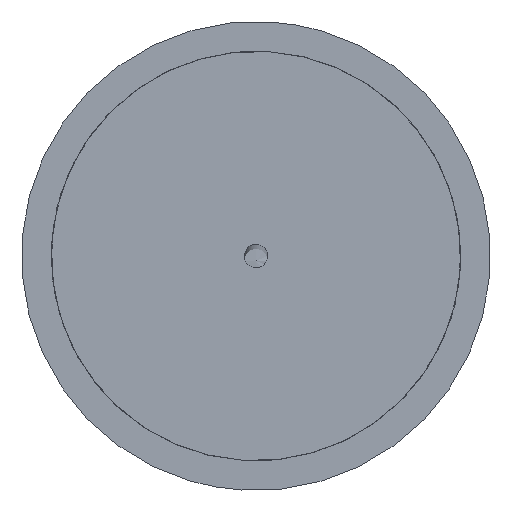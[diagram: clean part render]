
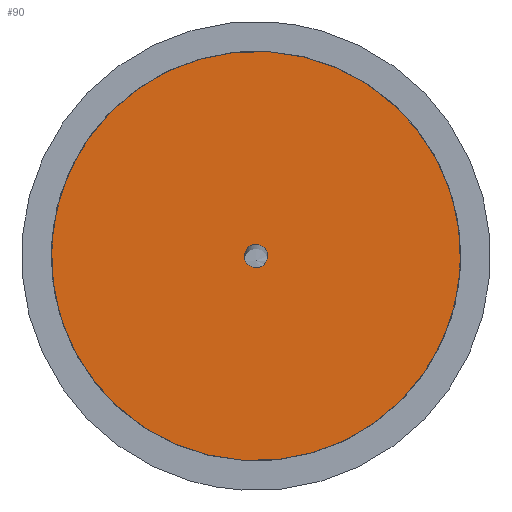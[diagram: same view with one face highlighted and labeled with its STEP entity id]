
A CAD part, top view. The second image highlights one B-rep face of the part: STEP entity #90.
In plain terms, the highlighted free-form (B-spline) face has degree [1, 1] with [2, 2] control points.
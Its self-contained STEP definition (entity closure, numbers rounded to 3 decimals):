
#90=ADVANCED_FACE('0:9150',(#111,#112),#113,.F.);
#111=FACE_OUTER_BOUND('',#2592,.T.);
#112=FACE_BOUND('',#2593,.T.);
#113=B_SPLINE_SURFACE_WITH_KNOTS('',1,1,((#2594,#2595),(#2596,#2597)),.UNSPECIFIED.,.F.,.F.,.F.,(2,2),(2,2),(0.0,1.0),(0.0,1.0),.UNSPECIFIED.);
#2592=EDGE_LOOP('',(#4815));
#2593=EDGE_LOOP('',(#4816));
#2594=CARTESIAN_POINT('',(60.638,273.209,1026.346));
#2595=CARTESIAN_POINT('',(-79.018,273.209,1026.346));
#2596=CARTESIAN_POINT('',(60.638,133.553,1026.346));
#2597=CARTESIAN_POINT('',(-79.018,133.553,1026.346));
#4815=ORIENTED_EDGE('',*,*,#4858,.F.);
#4816=ORIENTED_EDGE('',*,*,#4856,.F.);
#4856=EDGE_CURVE('0:9162',#4886,#4886,#4887,.T.);
#4858=EDGE_CURVE('0:9156',#4890,#4890,#4891,.T.);
#4886=VERTEX_POINT('',#4942);
#4887=CIRCLE('',#4943,4.0);
#4890=VERTEX_POINT('',#4946);
#4891=CIRCLE('',#4947,69.0);
#4942=CARTESIAN_POINT('',(-9.439,199.389,1026.346));
#4943=AXIS2_PLACEMENT_3D('',#5582,#5583,#5584);
#4946=CARTESIAN_POINT('',(-13.48,134.515,1026.346));
#4947=AXIS2_PLACEMENT_3D('',#5588,#5589,#5590);
#5582=CARTESIAN_POINT('',(-9.19,203.381,1026.346));
#5583=DIRECTION('',(0.,0.,1.0));
#5584=DIRECTION('',(-0.062,-0.998,0.));
#5588=CARTESIAN_POINT('',(-9.19,203.381,1026.346));
#5589=DIRECTION('',(0.,0.,-1.0));
#5590=DIRECTION('',(-0.062,-0.998,0.));
